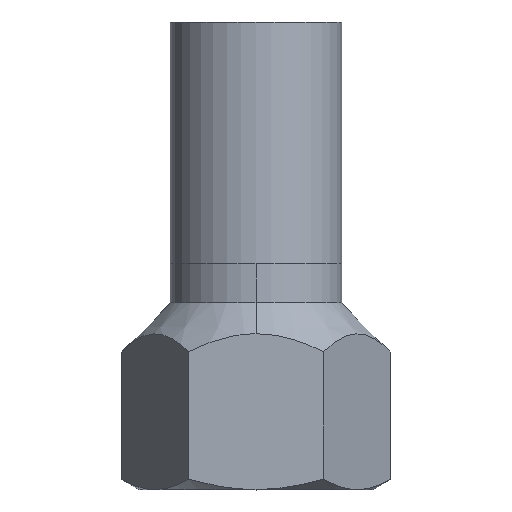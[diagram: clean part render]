
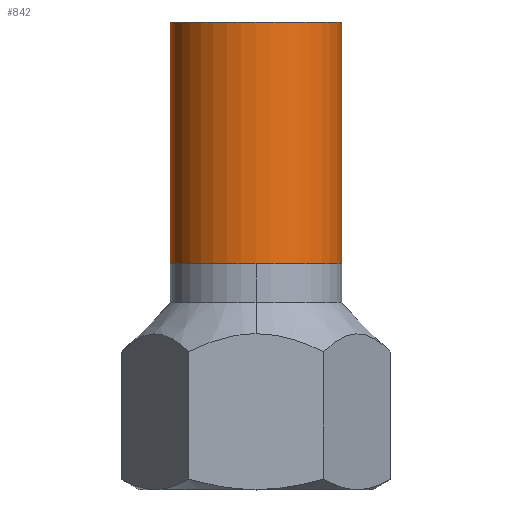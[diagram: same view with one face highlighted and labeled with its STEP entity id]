
A CAD part, top view. The second image highlights one B-rep face of the part: STEP entity #842.
In plain terms, the highlighted cylindrical face has radius 11 mm (diameter 22 mm), a partial arc.
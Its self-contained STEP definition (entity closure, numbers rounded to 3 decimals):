
#23 = AXIS2_PLACEMENT_3D ( 'NONE', #688, #1194, #92 ) ;
#92 = DIRECTION ( 'NONE',  ( -1., 0., 0. ) ) ;
#100 = ORIENTED_EDGE ( 'NONE', *, *, #654, .T. ) ;
#154 = LINE ( 'NONE', #990, #1091 ) ;
#183 = DIRECTION ( 'NONE',  ( 0., 0., -1. ) ) ;
#257 = CARTESIAN_POINT ( 'NONE',  ( 11., 0., 31. ) ) ;
#262 = DIRECTION ( 'NONE',  ( 0., 0., 1. ) ) ;
#268 = ORIENTED_EDGE ( 'NONE', *, *, #767, .T. ) ;
#353 = CARTESIAN_POINT ( 'NONE',  ( 0., 0., 0. ) ) ;
#361 = DIRECTION ( 'NONE',  ( 1., 0., 0. ) ) ;
#388 = VERTEX_POINT ( 'NONE', #1111 ) ;
#425 = CARTESIAN_POINT ( 'NONE',  ( 0., 0., 31. ) ) ;
#496 = FACE_OUTER_BOUND ( 'NONE', #1097, .T. ) ;
#497 = CIRCLE ( 'NONE', #994, 11. ) ;
#563 = EDGE_CURVE ( 'NONE', #388, #764, #497, .T. ) ;
#654 = EDGE_CURVE ( 'NONE', #791, #885, #868, .T. ) ;
#688 = CARTESIAN_POINT ( 'NONE',  ( 0., 0., 31. ) ) ;
#751 = AXIS2_PLACEMENT_3D ( 'NONE', #353, #262, #361 ) ;
#764 = VERTEX_POINT ( 'NONE', #1083 ) ;
#767 = EDGE_CURVE ( 'NONE', #388, #791, #997, .T. ) ;
#772 = CARTESIAN_POINT ( 'NONE',  ( -11., 0., 0. ) ) ;
#791 = VERTEX_POINT ( 'NONE', #1072 ) ;
#842 = ADVANCED_FACE ( 'NONE', ( #496 ), #1027, .T. ) ;
#867 = DIRECTION ( 'NONE',  ( 0., 0., -1. ) ) ;
#868 = CIRCLE ( 'NONE', #751, 11. ) ;
#872 = EDGE_CURVE ( 'NONE', #764, #885, #154, .T. ) ;
#885 = VERTEX_POINT ( 'NONE', #772 ) ;
#985 = ORIENTED_EDGE ( 'NONE', *, *, #872, .F. ) ;
#990 = CARTESIAN_POINT ( 'NONE',  ( -11., 0., 31. ) ) ;
#994 = AXIS2_PLACEMENT_3D ( 'NONE', #425, #1132, #1127 ) ;
#997 = LINE ( 'NONE', #257, #1265 ) ;
#1027 = CYLINDRICAL_SURFACE ( 'NONE', #23, 11. ) ;
#1072 = CARTESIAN_POINT ( 'NONE',  ( 11., 0., 0. ) ) ;
#1083 = CARTESIAN_POINT ( 'NONE',  ( -11., 0., 31. ) ) ;
#1091 = VECTOR ( 'NONE', #867, 1000. ) ;
#1097 = EDGE_LOOP ( 'NONE', ( #1110, #268, #100, #985 ) ) ;
#1110 = ORIENTED_EDGE ( 'NONE', *, *, #563, .F. ) ;
#1111 = CARTESIAN_POINT ( 'NONE',  ( 11., 0., 31. ) ) ;
#1127 = DIRECTION ( 'NONE',  ( 1., 0., 0. ) ) ;
#1132 = DIRECTION ( 'NONE',  ( 0., 0., 1. ) ) ;
#1194 = DIRECTION ( 'NONE',  ( 0., 0., -1. ) ) ;
#1265 = VECTOR ( 'NONE', #183, 1000. ) ;
